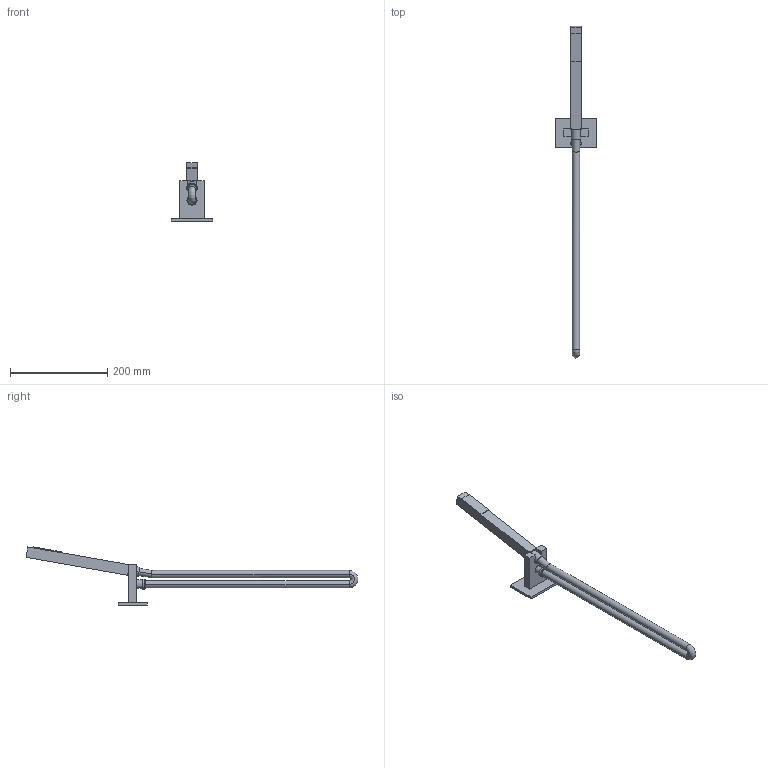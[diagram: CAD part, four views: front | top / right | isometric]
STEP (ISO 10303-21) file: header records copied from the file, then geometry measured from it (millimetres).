
FILE_DESCRIPTION(('FreeCAD Model'),'2;1');
FILE_NAME('Open CASCADE Shape Model','2024-08-10T23:41:07',('Author'),( ''),'Open CASCADE STEP processor 7.6','FreeCAD','Unknown');
FILE_SCHEMA(('AUTOMOTIVE_DESIGN { 1 0 10303 214 1 1 1 1 }'));
Length unit declared in the file: millimetre
Products named in the file (9): TopLevelAssembly; Wyciąganie001; Obrót profilu; Połączona geometria bryłowa; Wyciąganie002; Obrót profilu001; Wyciągnięcie po ścieżce; Obrót profilu002; Wyciąganie004
Assembly tree (8 placements, depth 2):
  TopLevelAssembly
    Wyciąganie001
    Obrót profilu
    Połączona geometria bryłowa
    Wyciąganie002
    Obrót profilu001
    Wyciągnięcie po ścieżce
    Obrót profilu002
    Wyciąganie004
Bounding box: 85.2 x 683.07 x 119.97 mm (x, y, z)
Volume: 360284.3 mm3; surface area: 93408.5 mm2
Topology: 8 solids, 8 shells, 64 faces, 118 edges, 70 vertices
Faces by surface type: plane 43, cylinder 14, bspline 7
Entity records: 1868 total; most frequent: CARTESIAN_POINT 384, DIRECTION 284, ORIENTED_EDGE 236, EDGE_CURVE 118, AXIS2_PLACEMENT_3D 100, LINE 84, VECTOR 84, VERTEX_POINT 70
